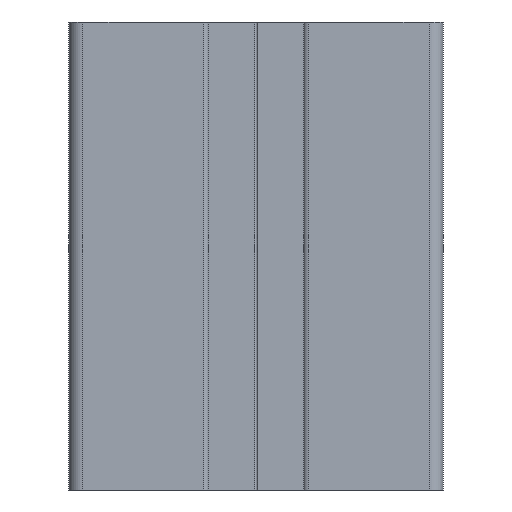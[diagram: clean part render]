
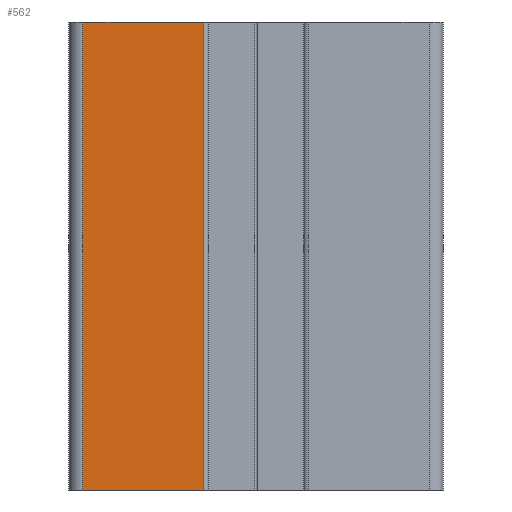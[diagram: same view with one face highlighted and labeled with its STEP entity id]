
A CAD part, front view. The second image highlights one B-rep face of the part: STEP entity #562.
In plain terms, the highlighted planar face has unit normal (0, -1, 0).
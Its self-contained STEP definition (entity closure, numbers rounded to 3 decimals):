
#562=ADVANCED_FACE('',(#1156),#1157,.F.);
#1156=FACE_OUTER_BOUND('',#1779,.T.);
#1157=PLANE('',#1780);
#1779=EDGE_LOOP('',(#3427,#3428,#3429,#3430));
#1780=AXIS2_PLACEMENT_3D('',#3431,#3432,#3433);
#3427=ORIENTED_EDGE('',*,*,#4626,.T.);
#3428=ORIENTED_EDGE('',*,*,#4552,.F.);
#3429=ORIENTED_EDGE('',*,*,#4031,.F.);
#3430=ORIENTED_EDGE('',*,*,#4346,.T.);
#3431=CARTESIAN_POINT('',(1.5,0.,50.0));
#3432=DIRECTION('',(0.0,1.0,0.0));
#3433=DIRECTION('',(0.0,0.0,1.0));
#4031=EDGE_CURVE('',#4953,#4955,#4956,.T.);
#4346=EDGE_CURVE('',#4953,#5459,#5461,.T.);
#4552=EDGE_CURVE('',#4955,#5734,#5736,.T.);
#4626=EDGE_CURVE('',#5459,#5734,#5824,.T.);
#4953=VERTEX_POINT('',#6230);
#4955=VERTEX_POINT('',#6232);
#4956=LINE('',#6233,#6234);
#5459=VERTEX_POINT('',#6906);
#5461=LINE('',#6908,#6909);
#5734=VERTEX_POINT('',#7288);
#5736=LINE('',#7290,#7291);
#5824=LINE('',#7409,#7410);
#6230=CARTESIAN_POINT('',(1.5,0.,50.0));
#6232=CARTESIAN_POINT('',(14.4,0.,50.0));
#6233=CARTESIAN_POINT('',(1.5,0.,50.0));
#6234=VECTOR('',#7729,1.0);
#6906=CARTESIAN_POINT('',(1.5,0.,0.0));
#6908=CARTESIAN_POINT('',(1.5,0.,50.0));
#6909=VECTOR('',#8157,1.0);
#7288=CARTESIAN_POINT('',(14.4,0.,0.0));
#7290=CARTESIAN_POINT('',(14.4,0.,50.0));
#7291=VECTOR('',#8357,1.0);
#7409=CARTESIAN_POINT('',(1.5,0.,0.0));
#7410=VECTOR('',#8427,1.0);
#7729=DIRECTION('',(1.0,0.0,0.0));
#8157=DIRECTION('',(0.0,0.0,-1.0));
#8357=DIRECTION('',(0.0,0.0,-1.0));
#8427=DIRECTION('',(1.0,0.0,0.0));
